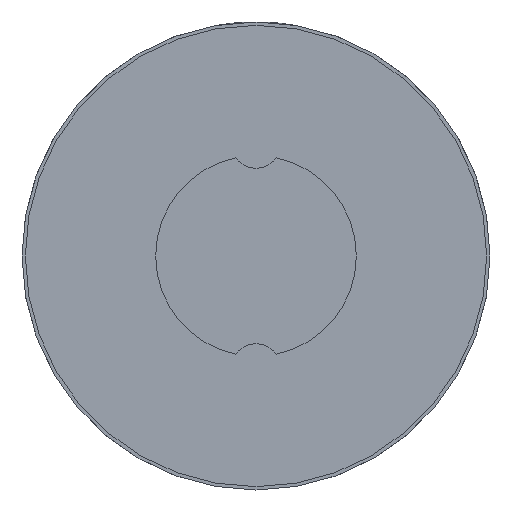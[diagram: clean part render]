
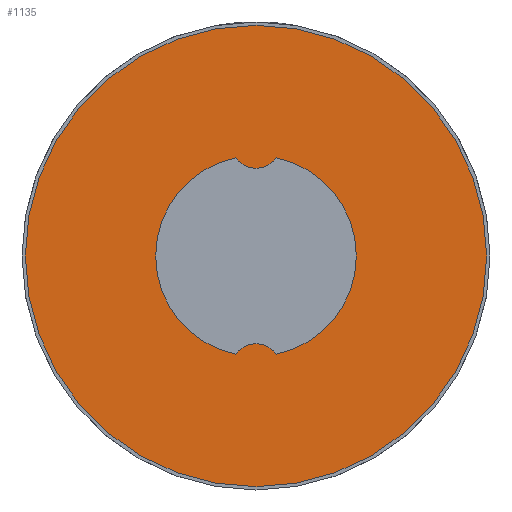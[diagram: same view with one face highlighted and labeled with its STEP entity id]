
A CAD part, left-side view. The second image highlights one B-rep face of the part: STEP entity #1135.
In plain terms, the highlighted planar face has unit normal (-1, 0, 0).
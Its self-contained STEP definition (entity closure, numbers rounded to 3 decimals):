
#796=CARTESIAN_POINT('',(0.0,-0.609,2.937));
#797=VERTEX_POINT('',#796);
#804=CARTESIAN_POINT('',(0.0,0.609,2.937));
#805=VERTEX_POINT('',#804);
#806=CARTESIAN_POINT('',(0.0,0.,3.375));
#807=DIRECTION('',(1.0,0.0,0.0));
#808=DIRECTION('',(0.0,-0.812,-0.583));
#809=AXIS2_PLACEMENT_3D('',#806,#807,#808);
#810=CIRCLE('',#809,0.75);
#811=EDGE_CURVE('',#797,#805,#810,.T.);
#838=CARTESIAN_POINT('',(0.0,0.609,-2.937));
#839=VERTEX_POINT('',#838);
#846=CARTESIAN_POINT('',(0.0,-0.609,-2.937));
#847=VERTEX_POINT('',#846);
#848=CARTESIAN_POINT('',(0.0,0.,-3.375));
#849=DIRECTION('',(1.0,0.0,0.0));
#850=DIRECTION('',(0.0,0.812,0.583));
#851=AXIS2_PLACEMENT_3D('',#848,#849,#850);
#852=CIRCLE('',#851,0.75);
#853=EDGE_CURVE('',#839,#847,#852,.T.);
#870=CARTESIAN_POINT('',(0.,0.0,0.));
#871=DIRECTION('',(-1.0,0.0,0.0));
#872=DIRECTION('',(0.0,0.0,1.0));
#873=AXIS2_PLACEMENT_3D('',#870,#871,#872);
#874=CIRCLE('',#873,3.);
#875=EDGE_CURVE('',#805,#839,#874,.T.);
#902=CARTESIAN_POINT('',(0.,0.0,0.));
#903=DIRECTION('',(-1.0,0.0,0.0));
#904=DIRECTION('',(0.0,0.0,1.0));
#905=AXIS2_PLACEMENT_3D('',#902,#903,#904);
#906=CIRCLE('',#905,3.);
#907=EDGE_CURVE('',#847,#797,#906,.T.);
#1106=CARTESIAN_POINT('',(0.,0.0,6.9));
#1107=VERTEX_POINT('',#1106);
#1108=CARTESIAN_POINT('',(0.,0.0,0.));
#1109=DIRECTION('',(-1.0,0.0,0.0));
#1110=DIRECTION('',(0.0,0.0,1.0));
#1111=AXIS2_PLACEMENT_3D('',#1108,#1109,#1110);
#1112=CIRCLE('',#1111,6.9);
#1113=EDGE_CURVE('',#1107,#1107,#1112,.T.);
#1121=CARTESIAN_POINT('',(0.,0.0,4.95));
#1122=DIRECTION('',(-1.0,0.0,0.0));
#1123=DIRECTION('',(0.0,0.0,1.0));
#1124=AXIS2_PLACEMENT_3D('',#1121,#1122,#1123);
#1125=PLANE('',#1124);
#1126=ORIENTED_EDGE('',*,*,#1113,.T.);
#1127=EDGE_LOOP('',(#1126));
#1128=FACE_OUTER_BOUND('',#1127,.T.);
#1129=ORIENTED_EDGE('',*,*,#907,.F.);
#1130=ORIENTED_EDGE('',*,*,#853,.F.);
#1131=ORIENTED_EDGE('',*,*,#875,.F.);
#1132=ORIENTED_EDGE('',*,*,#811,.F.);
#1133=EDGE_LOOP('',(#1129,#1130,#1131,#1132));
#1134=FACE_BOUND('',#1133,.T.);
#1135=ADVANCED_FACE('',(#1128,#1134),#1125,.T.);
